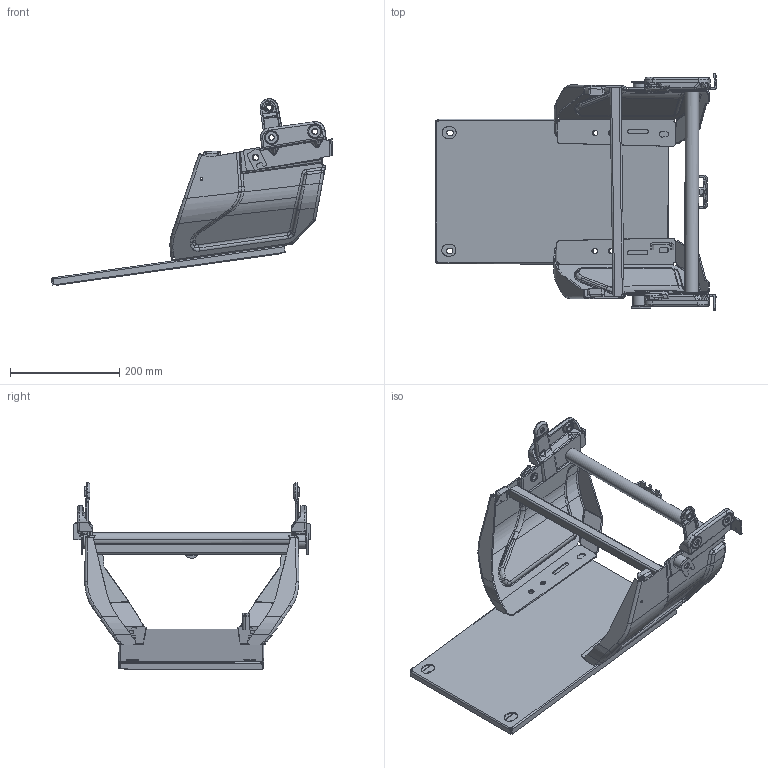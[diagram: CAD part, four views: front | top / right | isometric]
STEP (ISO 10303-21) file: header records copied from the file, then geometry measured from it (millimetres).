
FILE_DESCRIPTION(('CATIA V5 STEP Exchange'),'2;1');
FILE_NAME('C:\Users\Administrator\Desktop\解放底支架更改\SHT0016049-20250307.stp','2025-03-07T07:31:14+00:00',('none'),('none'),'CATIA Version 5 Release 20 GA (IN-10)','CATIA V5 STEP AP214','none');
FILE_SCHEMA(('AUTOMOTIVE_DESIGN { 1 0 10303 214 1 1 1 1 }'));
Length unit declared in the file: millimetre
Products named in the file (21): SHT0016049; YJ-6907001; YJ-6907002; YJ-6805303; YJ-6805302; Q370C10; SHT0016051; YJ-6907007; YJ-6907010; YJ-6907011; YJ-6907012; YJ-6907013; H4681010216A0-RC1; YJ-6805311; H4681010216A0; YJ-6907004; YJ-6907008; SHT0017964; SHT0017965; SHT0015924; H4B-6805326
Assembly tree (27 placements, depth 3):
  SHT0016049
    YJ-6907001
    YJ-6907002
    YJ-6805303
    YJ-6805302
    Q370C10  x6
    SHT0016051
    YJ-6907007
    YJ-6907010
      YJ-6907011
      YJ-6907012
      YJ-6907013
    H4681010216A0-RC1
      YJ-6805311
      H4681010216A0
    YJ-6907004
    YJ-6907008
    H4681010216A0
    SHT0017964
    SHT0017965  x2
    SHT0015924
    H4B-6805326
Bounding box: 514.63 x 433.29 x 341.65 mm (x, y, z)
Volume: 1152223.2 mm3; surface area: 1028279.3 mm2
Topology: 29 solids, 29 shells, 1862 faces, 4912 edges, 3096 vertices
Faces by surface type: cylinder 814, plane 603, bspline 262, torus 88, cone 51, extrusion 28, sphere 14, revolution 2
Entity records: 92550 total; most frequent: CARTESIAN_POINT 55966, ORIENTED_EDGE 8664, DIRECTION 5266, EDGE_CURVE 4332, VERTEX_POINT 2737, AXIS2_PLACEMENT_3D 2004, VECTOR 1921, LINE 1893
